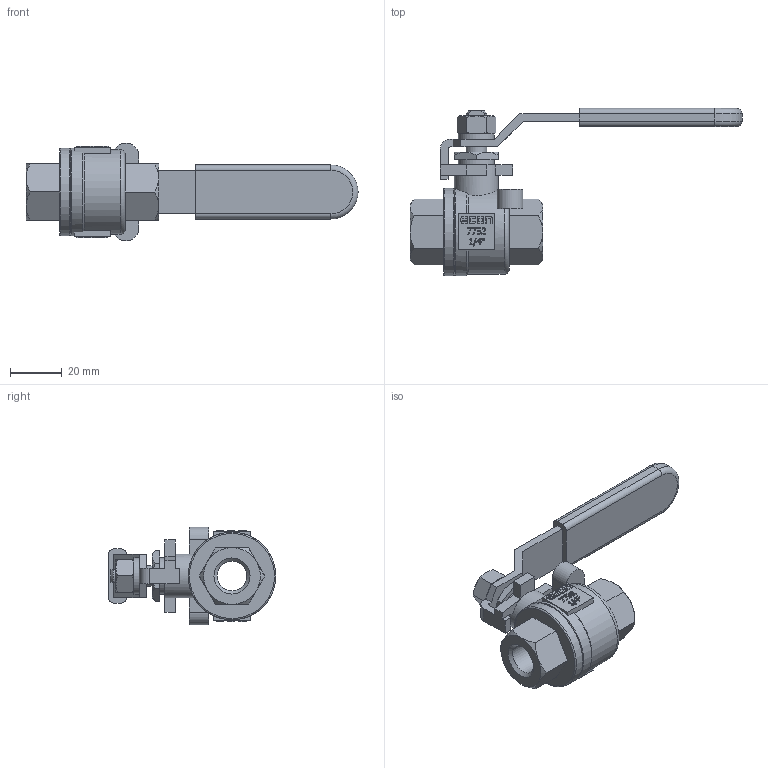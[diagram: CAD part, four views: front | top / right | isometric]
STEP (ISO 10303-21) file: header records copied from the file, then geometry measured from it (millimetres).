
FILE_DESCRIPTION(/* description */ ('Eriks item no: 12427449'),/* implementation_level */ '2;1');
FILE_NAME(/* name */ '7752-DN08-FB-1000PSI-BSPP.stp',/* time_stamp */ '2024-02-16T16:28:21+01:00',/* author */ ('roger.thijssen'),/* organization */ (''),/* preprocessor_version */ 'ST-DEVELOPER v19.2',/* originating_system */ 'Autodesk Inventor 2024',/* authorisation */ '');
FILE_SCHEMA (('AUTOMOTIVE_DESIGN { 1 0 10303 214 3 1 1 }'));
Length unit declared in the file: millimetre
Products named in the file (1): Ball valve, 7752-DN08-FB-1000PSI-BSPP
Bounding box: 128.75 x 65 x 38 mm (x, y, z)
Volume: 46844 mm3; surface area: 16525.8 mm2
Topology: 1 solids, 1 shells, 1125 faces, 3087 edges, 2043 vertices
Faces by surface type: plane 928, bspline 89, cylinder 65, cone 39, torus 4
Full cylindrical faces by diameter (mm): 8 x2, 11.445 x1, 14 x2, 17 x1, 34 x1
Entity records: 37079 total; most frequent: CARTESIAN_POINT 7925, ORIENTED_EDGE 6174, DIRECTION 5094, EDGE_CURVE 3087, LINE 2642, VECTOR 2642, VERTEX_POINT 2043, AXIS2_PLACEMENT_3D 1226
